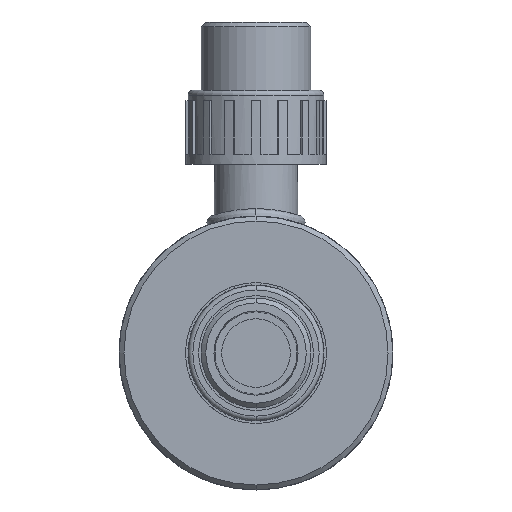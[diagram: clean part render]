
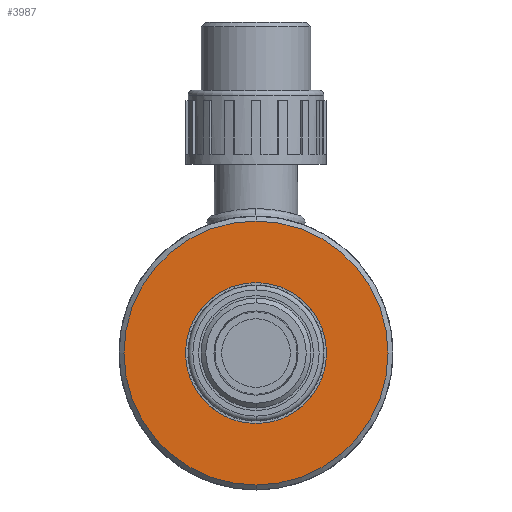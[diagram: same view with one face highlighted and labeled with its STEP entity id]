
A CAD part, front view. The second image highlights one B-rep face of the part: STEP entity #3987.
In plain terms, the highlighted planar face has unit normal (0, -1, 0).
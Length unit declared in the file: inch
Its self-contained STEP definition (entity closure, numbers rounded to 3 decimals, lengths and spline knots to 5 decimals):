
#241 = EDGE_CURVE ( 'NONE', #4715, #1371, #10103, .T. ) ;
#814 = DIRECTION ( 'NONE',  ( 0., 1., 0. ) ) ;
#1051 = AXIS2_PLACEMENT_3D ( 'NONE', #5801, #1095, #6587 ) ;
#1095 = DIRECTION ( 'NONE',  ( 0., -1., 0. ) ) ;
#1305 = EDGE_CURVE ( 'NONE', #6946, #1807, #6640, .T. ) ;
#1371 = VERTEX_POINT ( 'NONE', #8127 ) ;
#1807 = VERTEX_POINT ( 'NONE', #2213 ) ;
#1894 = CARTESIAN_POINT ( 'NONE',  ( 0., 0., 0. ) ) ;
#1925 = ORIENTED_EDGE ( 'NONE', *, *, #1305, .T. ) ;
#1962 = EDGE_CURVE ( 'NONE', #1371, #4715, #3817, .T. ) ;
#2103 = AXIS2_PLACEMENT_3D ( 'NONE', #8056, #3330, #8864 ) ;
#2204 = DIRECTION ( 'NONE',  ( 0., 1., 0. ) ) ;
#2213 = CARTESIAN_POINT ( 'NONE',  ( 0., 0., 0.618 ) ) ;
#2687 = DIRECTION ( 'NONE',  ( 0., 0., 1. ) ) ;
#2785 = FACE_BOUND ( 'NONE', #9695, .T. ) ;
#3162 = CARTESIAN_POINT ( 'NONE',  ( 0., 0., -1.663 ) ) ;
#3330 = DIRECTION ( 'NONE',  ( 0., 1., 0. ) ) ;
#3817 = CIRCLE ( 'NONE', #1051, 1.663 ) ;
#3987 = ADVANCED_FACE ( 'NONE', ( #2785, #5119 ), #8718, .F. ) ;
#4040 = EDGE_LOOP ( 'NONE', ( #8642, #4077 ) ) ;
#4077 = ORIENTED_EDGE ( 'NONE', *, *, #241, .T. ) ;
#4715 = VERTEX_POINT ( 'NONE', #3162 ) ;
#4975 = CIRCLE ( 'NONE', #6223, 0.618 ) ;
#5119 = FACE_OUTER_BOUND ( 'NONE', #4040, .T. ) ;
#5470 = AXIS2_PLACEMENT_3D ( 'NONE', #7913, #814, #9528 ) ;
#5782 = EDGE_CURVE ( 'NONE', #1807, #6946, #4975, .T. ) ;
#5801 = CARTESIAN_POINT ( 'NONE',  ( 0., 0., 0. ) ) ;
#6223 = AXIS2_PLACEMENT_3D ( 'NONE', #6902, #2204, #7707 ) ;
#6587 = DIRECTION ( 'NONE',  ( 0., 0., 1. ) ) ;
#6640 = CIRCLE ( 'NONE', #2103, 0.618 ) ;
#6902 = CARTESIAN_POINT ( 'NONE',  ( 0., 0., 0. ) ) ;
#6946 = VERTEX_POINT ( 'NONE', #7839 ) ;
#7130 = ORIENTED_EDGE ( 'NONE', *, *, #5782, .T. ) ;
#7393 = DIRECTION ( 'NONE',  ( 0., -1., 0. ) ) ;
#7707 = DIRECTION ( 'NONE',  ( 0., 0., 1. ) ) ;
#7839 = CARTESIAN_POINT ( 'NONE',  ( 0., 0., -0.618 ) ) ;
#7913 = CARTESIAN_POINT ( 'NONE',  ( 0., 0., 0. ) ) ;
#8056 = CARTESIAN_POINT ( 'NONE',  ( 0., 0., 0. ) ) ;
#8127 = CARTESIAN_POINT ( 'NONE',  ( 0., 0., 1.663 ) ) ;
#8379 = AXIS2_PLACEMENT_3D ( 'NONE', #1894, #7393, #2687 ) ;
#8642 = ORIENTED_EDGE ( 'NONE', *, *, #1962, .T. ) ;
#8718 = PLANE ( 'NONE',  #5470 ) ;
#8864 = DIRECTION ( 'NONE',  ( 0., 0., 1. ) ) ;
#9528 = DIRECTION ( 'NONE',  ( 0., 0., 1. ) ) ;
#9695 = EDGE_LOOP ( 'NONE', ( #7130, #1925 ) ) ;
#10103 = CIRCLE ( 'NONE', #8379, 1.663 ) ;
